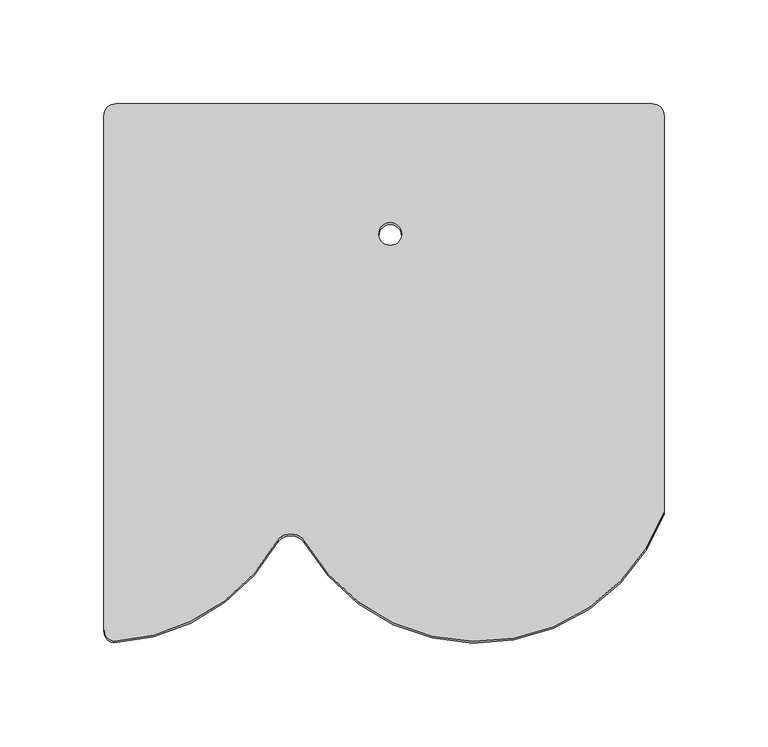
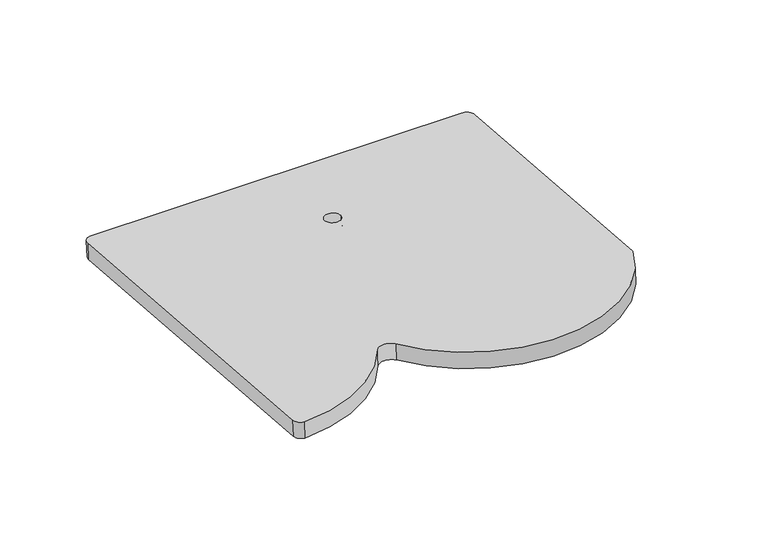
"""IFC4 building model written with IfcOpenShell, lengths in millimetres: proxy geometry, ML-PR-V-P-BLACK-P : K 1,5X-L."""

from ifc_helpers import new_model, si_unit, point, frame, frame_2d, origin, place, context, project, spatial, polyline, circle_curve, trimmed, segment, composite_curve, outline, extrude, source, transform, mapped, element, save


def specialty_equipment_26cd32d4(model_context):
    return source(origin(), model_context, "Body", "SweptSolid", [
        extrude(outline(composite_curve([segment(polyline([(0.0, 0.0), (191.5936723, 0.0)]), True, "CONTINUOUS"), segment(trimmed(circle_curve(frame_2d((158.0, -89.9303352)), 96.0), [point((191.5936723, 0.0))], [point((205.4030407, -173.4105827))], False, "CARTESIAN"), True, "CONTINUOUS"), segment(trimmed(circle_curve(frame_2d((210.0390765, -179.9303352)), 8.0), [point((205.4030407, -173.4105827))], [point((205.4030407, -186.4500876))], True, "CARTESIAN"), True, "CONTINUOUS"), segment(trimmed(circle_curve(frame_2d((158.0, -269.9303352)), 96.0), [point((205.4030407, -186.4500876))], [point((253.8824823, -265.1816945))], False, "CARTESIAN"), True, "CONTINUOUS"), segment(trimmed(circle_curve(frame_2d((248.0, -264.0)), 6.0), [point((253.8824823, -265.1816945))], [point((248.0, -270.0))], False, "CARTESIAN"), True, "CONTINUOUS"), segment(polyline([(248.0, -270.0), (0.0, -270.0)]), True, "CONTINUOUS"), segment(trimmed(circle_curve(frame_2d((0.0, -264.0)), 6.0), [point((0.0, -270.0))], [point((-6.0, -264.0))], False, "CARTESIAN"), True, "CONTINUOUS"), segment(polyline([(-6.0, -264.0), (-6.0, -6.0)]), True, "CONTINUOUS"), segment(trimmed(circle_curve(frame_2d((0.0, -6.0)), 6.0), [point((-6.0, -6.0))], [point((0.0, 0.0))], False, "CARTESIAN"), True, "CONTINUOUS")], self_intersect=False), holes=[composite_curve([segment(trimmed(circle_curve(frame_2d((57.0, -132.0)), 5.5), [point((57.0, -137.5))], [point((57.0, -126.5))], True, "CARTESIAN"), True, "CONTINUOUS"), segment(trimmed(circle_curve(frame_2d((57.0, -132.0)), 5.5), [point((57.0, -126.5))], [point((57.0, -137.5))], True, "CARTESIAN"), True, "CONTINUOUS")], self_intersect=False)]), frame((90.0, 35.2157194, -2.7512281), z_axis=(0.0, 0.07788766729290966, 0.9969621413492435), x_axis=(0.0, -0.9969621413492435, 0.07788766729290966)), (0.0, 0.0, 1.0), 11.5),
    ])


if __name__ == "__main__":
    model = new_model("IFC4")
    model_context = context("Model", 3, world=origin())
    ifc_project = project(units=[si_unit("LENGTHUNIT", "METRE", prefix="MILLI")], contexts=[model_context])
    site = spatial("IfcSite", under=ifc_project)
    building = spatial("IfcBuilding", under=site)
    placement = place(None, origin())
    specialty_equipment_shape = specialty_equipment_26cd32d4(model_context)
    element("IfcBuildingElementProxy", 1, Name="ML-PR-V-P-BLACK-P : K 1,5X-L", ObjectType="ML-PR-V-P-BLACK-P : K 1,5X-L", at=placement, inside=building, context=model_context, shape_type="MappedRepresentation", body=[
        mapped(specialty_equipment_shape, transform((0.0, 0.0, 0.0), x_axis=(1.0, 0.0, 0.0), y_axis=(0.0, 1.0, 0.0), z_axis=(0.0, 0.0, 1.0))),
    ])
    save(model, "model.ifc")
